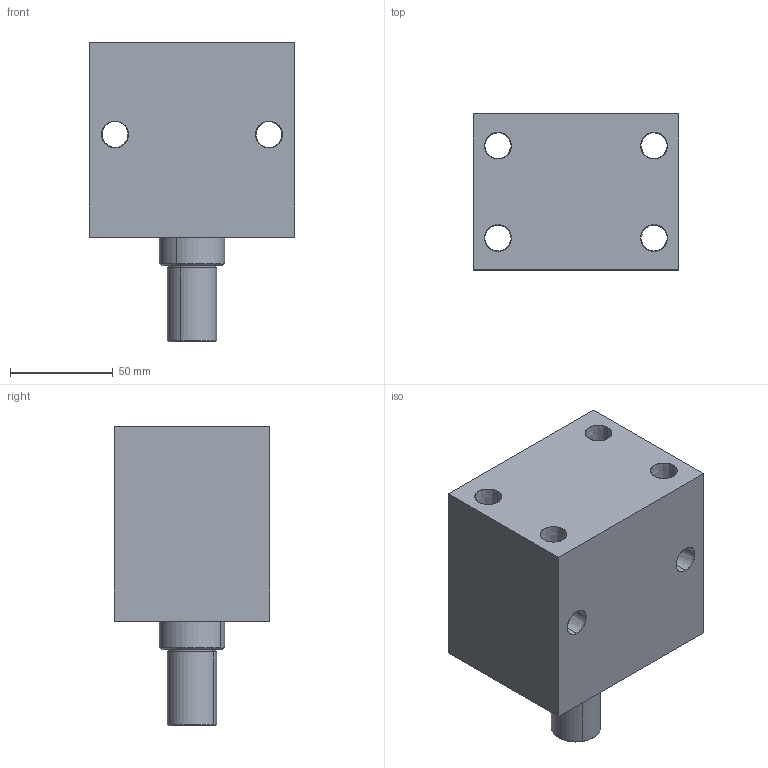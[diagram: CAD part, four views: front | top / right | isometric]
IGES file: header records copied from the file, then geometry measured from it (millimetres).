
Start section: SolidWorks IGES file using analytic representation for surfaces
Global section: file name: D:\karuppas\Clasp\3D model\Block cylinder B01C-Male thread - Copy\B01C-425M\Block cylinder_B01C-425M.IGS; native system: SolidWorks 2017; preprocessor: SolidWorks 2017; author: pc; date: 220709.234225; units: millimetre
Bounding box: 100 x 76 x 146 mm (x, y, z)
Surface area: 82894.2 mm2 (no closed solid volume)
Topology: 0 solids, 0 shells, 338 faces, 5313 edges, 5309 vertices
Faces by surface type: bspline 296, revolution 42
